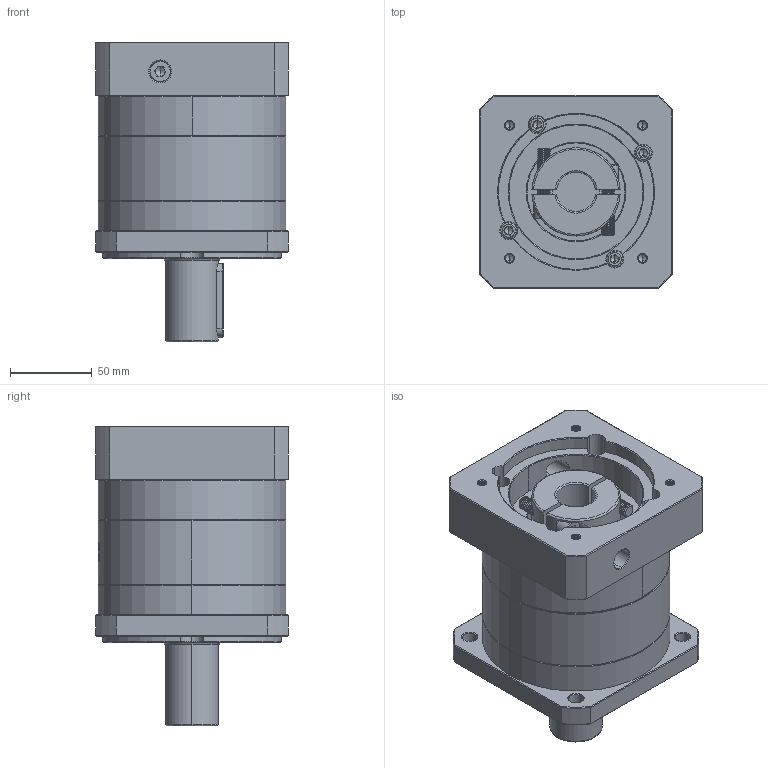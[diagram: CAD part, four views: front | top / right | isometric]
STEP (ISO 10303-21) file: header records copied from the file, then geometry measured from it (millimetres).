
FILE_DESCRIPTION (( 'STEP AP214' ), '1' );
FILE_NAME ('ZF120A-D32-L1-P2-24-95-115-M6.step', '2023-08-27T04:44:34', ( '' ), ( '' ), 'SwSTEP 2.0', 'SolidWorks 2016', '' );
FILE_SCHEMA (( 'AUTOMOTIVE_DESIGN' ));
Length unit declared in the file: millimetre
Products named in the file (1): ZF120A-D32-L1-P2-24-95-115-M6
Bounding box: 118 x 118 x 183.5 mm (x, y, z)
Volume: 1377483.8 mm3; surface area: 159230.5 mm2
Topology: 6 solids, 6 shells, 2237 faces, 5961 edges, 3825 vertices
Faces by surface type: plane 1034, bspline 439, cylinder 421, cone 343
Entity records: 123217 total; most frequent: CARTESIAN_POINT 48340, ORIENTED_EDGE 11862, DIRECTION 8618, EDGE_CURVE 5931, VERTEX_POINT 3825, VECTOR 3102, LINE 3102, AXIS2_PLACEMENT_3D 2758
